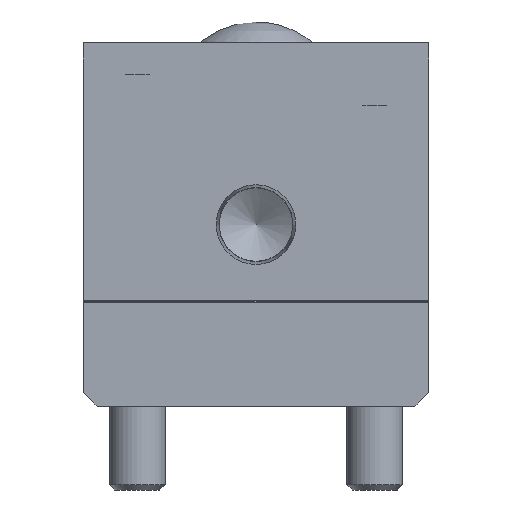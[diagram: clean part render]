
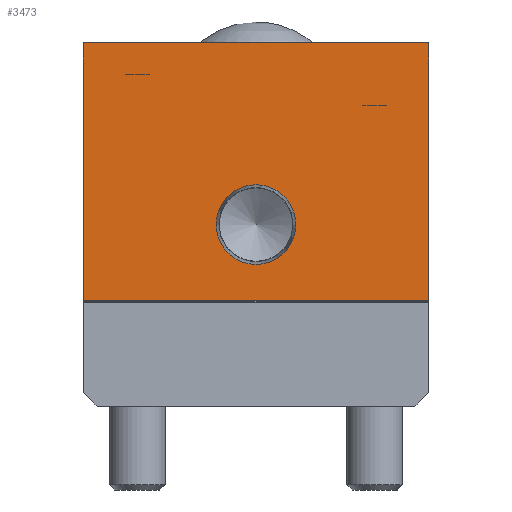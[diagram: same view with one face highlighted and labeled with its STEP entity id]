
A CAD part, front view. The second image highlights one B-rep face of the part: STEP entity #3473.
In plain terms, the highlighted planar face has unit normal (0, -1, 0).
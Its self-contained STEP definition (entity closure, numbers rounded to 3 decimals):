
#222=FACE_BOUND('',#757,.T.);
#317=CIRCLE('',#3698,5.704);
#503=FACE_OUTER_BOUND('',#756,.T.);
#756=EDGE_LOOP('',(#2499,#2500,#2501,#2502));
#757=EDGE_LOOP('',(#2503));
#1086=LINE('',#5167,#1354);
#1089=LINE('',#5172,#1357);
#1091=LINE('',#5180,#1359);
#1105=LINE('',#5216,#1373);
#1354=VECTOR('',#4169,36.9);
#1357=VECTOR('',#4174,49.5);
#1359=VECTOR('',#4182,36.9);
#1373=VECTOR('',#4226,49.5);
#1605=VERTEX_POINT('',#5164);
#1606=VERTEX_POINT('',#5166);
#1607=VERTEX_POINT('',#5170);
#1610=VERTEX_POINT('',#5178);
#1614=VERTEX_POINT('',#5192);
#1929=EDGE_CURVE('',#1606,#1605,#1086,.T.);
#1932=EDGE_CURVE('',#1605,#1607,#1089,.T.);
#1936=EDGE_CURVE('',#1610,#1607,#1091,.T.);
#1941=EDGE_CURVE('',#1614,#1614,#317,.T.);
#1954=EDGE_CURVE('',#1610,#1606,#1105,.T.);
#2499=ORIENTED_EDGE('',*,*,#1954,.T.);
#2500=ORIENTED_EDGE('',*,*,#1929,.T.);
#2501=ORIENTED_EDGE('',*,*,#1932,.T.);
#2502=ORIENTED_EDGE('',*,*,#1936,.F.);
#2503=ORIENTED_EDGE('',*,*,#1941,.T.);
#3142=PLANE('',#3731);
#3473=ADVANCED_FACE('',(#503,#222),#3142,.T.);
#3698=AXIS2_PLACEMENT_3D('',#5193,#4197,#4198);
#3731=AXIS2_PLACEMENT_3D('',#5254,#4280,#4281);
#4169=DIRECTION('',(0.,0.,1.));
#4174=DIRECTION('',(-1.,0.,0.));
#4182=DIRECTION('',(0.,0.,1.));
#4197=DIRECTION('center_axis',(0.,1.,0.));
#4198=DIRECTION('ref_axis',(1.,0.,0.));
#4226=DIRECTION('',(1.,0.,0.));
#4280=DIRECTION('center_axis',(0.,-1.,0.));
#4281=DIRECTION('ref_axis',(0.,0.,-1.));
#5164=CARTESIAN_POINT('',(24.75,0.,52.));
#5166=CARTESIAN_POINT('',(24.75,0.,15.1));
#5167=CARTESIAN_POINT('',(24.75,0.,0.));
#5170=CARTESIAN_POINT('',(-24.75,0.,52.));
#5172=CARTESIAN_POINT('',(24.75,0.,52.));
#5178=CARTESIAN_POINT('',(-24.75,0.,15.1));
#5180=CARTESIAN_POINT('',(-24.75,0.,0.));
#5192=CARTESIAN_POINT('',(5.704,0.,26.));
#5193=CARTESIAN_POINT('Origin',(0.,0.,26.));
#5216=CARTESIAN_POINT('',(24.75,0.,15.1));
#5254=CARTESIAN_POINT('Origin',(24.75,0.,0.));
